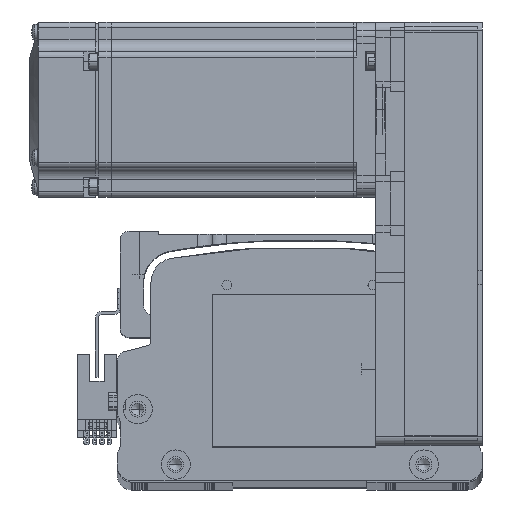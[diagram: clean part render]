
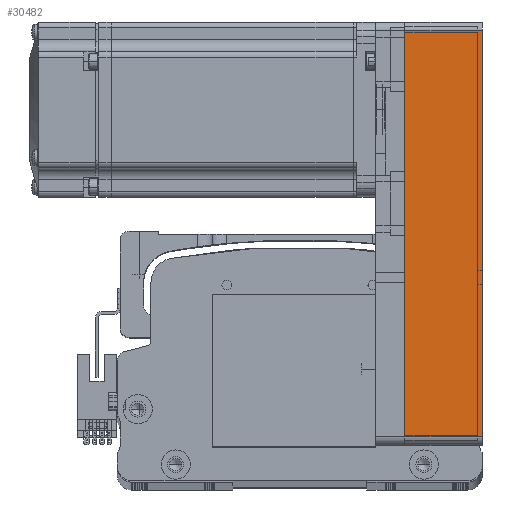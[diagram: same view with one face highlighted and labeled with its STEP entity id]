
A CAD part, top view. The second image highlights one B-rep face of the part: STEP entity #30482.
In plain terms, the highlighted planar face has unit normal (0, 0, 1) as drawn and (0, 1, 0) by its records, which use the part's own axes.
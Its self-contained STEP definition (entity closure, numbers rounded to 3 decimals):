
#4744 = ORIENTED_EDGE ( 'NONE', *, *, #56924, .T. ) ;
#8148 = CARTESIAN_POINT ( 'NONE',  ( 72.5, 30., 26.5 ) ) ;
#9262 = VERTEX_POINT ( 'NONE', #39291 ) ;
#14915 = DIRECTION ( 'NONE',  ( 1., 0., 0. ) ) ;
#15933 = DIRECTION ( 'NONE',  ( -1., 0., 0. ) ) ;
#17595 = CARTESIAN_POINT ( 'NONE',  ( 72.5, 30., 26.5 ) ) ;
#18793 = DIRECTION ( 'NONE',  ( 0., 0., 1. ) ) ;
#21458 = PLANE ( 'NONE',  #77380 ) ;
#24933 = EDGE_CURVE ( 'NONE', #9262, #79859, #82058, .T. ) ;
#25578 = VERTEX_POINT ( 'NONE', #86615 ) ;
#25622 = CARTESIAN_POINT ( 'NONE',  ( -69.5, 30., 26.5 ) ) ;
#29084 = CARTESIAN_POINT ( 'NONE',  ( 69.5, 30., 26.5 ) ) ;
#30482 = ADVANCED_FACE ( 'NONE', ( #67249 ), #21458, .F. ) ;
#32483 = EDGE_CURVE ( 'NONE', #46908, #25578, #84862, .T. ) ;
#33881 = ORIENTED_EDGE ( 'NONE', *, *, #24933, .T. ) ;
#39291 = CARTESIAN_POINT ( 'NONE',  ( -69.5, 30., 0. ) ) ;
#43991 = VECTOR ( 'NONE', #18793, 1000. ) ;
#46908 = VERTEX_POINT ( 'NONE', #83436 ) ;
#51272 = ORIENTED_EDGE ( 'NONE', *, *, #32483, .T. ) ;
#55362 = DIRECTION ( 'NONE',  ( 0., -1., 0. ) ) ;
#55971 = EDGE_LOOP ( 'NONE', ( #4744, #33881, #86939, #51272 ) ) ;
#56924 = EDGE_CURVE ( 'NONE', #25578, #9262, #74890, .T. ) ;
#59879 = CARTESIAN_POINT ( 'NONE',  ( -69.5, 30., 26.5 ) ) ;
#63175 = CARTESIAN_POINT ( 'NONE',  ( 72.5, 30., 0. ) ) ;
#63984 = VECTOR ( 'NONE', #78469, 1000. ) ;
#64782 = VECTOR ( 'NONE', #76321, 1000. ) ;
#67249 = FACE_OUTER_BOUND ( 'NONE', #55971, .T. ) ;
#70649 = VECTOR ( 'NONE', #15933, 1000. ) ;
#74890 = LINE ( 'NONE', #63175, #70649 ) ;
#76321 = DIRECTION ( 'NONE',  ( 0., 0., -1. ) ) ;
#77380 = AXIS2_PLACEMENT_3D ( 'NONE', #8148, #55362, #14915 ) ;
#78469 = DIRECTION ( 'NONE',  ( -1., 0., 0. ) ) ;
#79526 = EDGE_CURVE ( 'NONE', #46908, #79859, #81971, .T. ) ;
#79859 = VERTEX_POINT ( 'NONE', #59879 ) ;
#81971 = LINE ( 'NONE', #17595, #63984 ) ;
#82058 = LINE ( 'NONE', #25622, #43991 ) ;
#83436 = CARTESIAN_POINT ( 'NONE',  ( 69.5, 30., 26.5 ) ) ;
#84862 = LINE ( 'NONE', #29084, #64782 ) ;
#86615 = CARTESIAN_POINT ( 'NONE',  ( 69.5, 30., 0. ) ) ;
#86939 = ORIENTED_EDGE ( 'NONE', *, *, #79526, .F. ) ;
